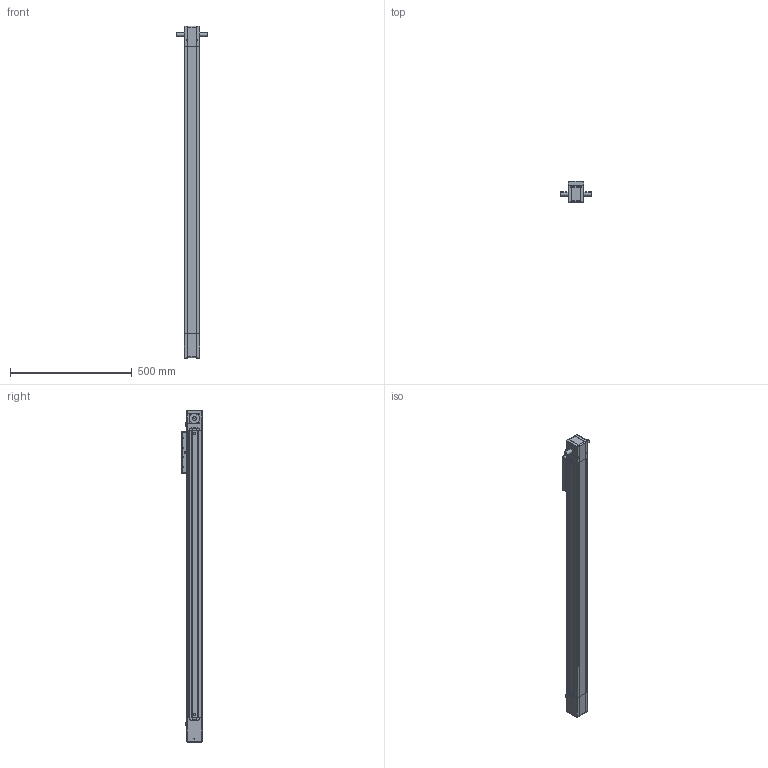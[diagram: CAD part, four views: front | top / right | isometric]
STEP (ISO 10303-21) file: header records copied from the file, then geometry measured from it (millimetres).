
FILE_DESCRIPTION(/* description */ ('STEP AP214'),/* implementation_level */ '2;1');
FILE_NAME(/* name */ 'MTJ 65 1000 S 2 0(0)',/* time_stamp */ '2026-06-01T14:00:27+02:00',/* author */ ('License CC BY-ND 4.0'),/* organization */ ('CADENAS'),/* preprocessor_version */ 'ST-DEVELOPER v20',/* originating_system */ 'PARTsolutions',/* authorisation */ ' ');
FILE_SCHEMA (('AUTOMOTIVE_DESIGN {1 0 10303 214 3 1 1}'));
Length unit declared in the file: millimetre
Products named in the file (5): MTJ 65 1000 S 2 0(0); MTJ 65 2_drive_block; MTJ 65 1000 S(0)_profil; MTJ 65_end_block; MTJ 65 S_carriage
Assembly tree (4 placements, depth 2):
  MTJ 65 1000 S 2 0(0)
    MTJ 65 2_drive_block
    MTJ 65 1000 S(0)_profil
    MTJ 65_end_block
    MTJ 65 S_carriage
Bounding box: 130 x 85 x 1365 mm (x, y, z)
Volume: 5155837.5 mm3; surface area: 693094.2 mm2
Topology: 4 solids, 4 shells, 775 faces, 1872 edges, 1204 vertices
Faces by surface type: plane 511, cylinder 176, cone 64, sphere 14, torus 10
Full cylindrical faces by diameter (mm): 0.5 x2, 2.5 x2, 3.24 x4, 3.242 x8, 4.134 x2, 4.917 x20, 7 x6, 8 x10, 8.5 x16, 10 x22, 10.1 x4, 11 x2, 11.8 x2, 12.2 x2, 16 x2, 42 x2
Entity records: 26601 total; most frequent: CARTESIAN_POINT 3626, DIRECTION 3586, ORIENTED_EDGE 3272, EDGE_CURVE 1636, LINE 1234, VECTOR 1234, VERTEX_POINT 1178, AXIS2_PLACEMENT_3D 1176
